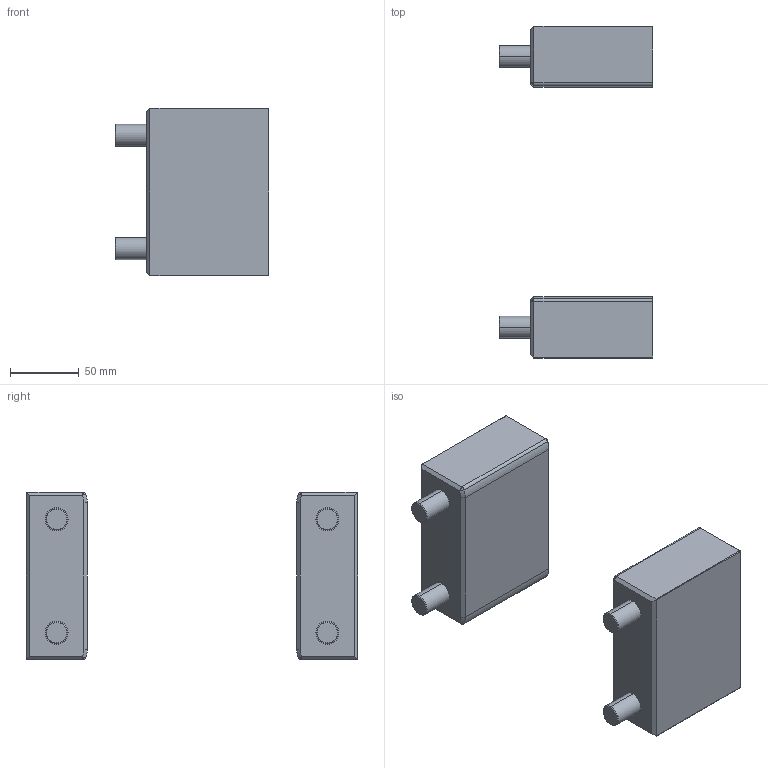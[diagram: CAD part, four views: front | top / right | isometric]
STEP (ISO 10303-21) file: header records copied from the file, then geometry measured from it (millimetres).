
FILE_DESCRIPTION (( 'STEP AP203' ), '1' );
FILE_NAME ('BLG350L4.8.step', '2016-11-21T18:58:10', ( '' ), ( '' ), 'SwSTEP 2.0', 'SolidWorks 2014', '' );
FILE_SCHEMA (( 'CONFIG_CONTROL_DESIGN' ));
Length unit declared in the file: inch
Products named in the file (3): BLG350L4.8; 58-11x375 SHCS
Assembly tree (6 placements, depth 2):
  BLG350L4.8
    BLG350L4.8  x2
    58-11x375 SHCS  x4
Bounding box: 111.89 x 241.34 x 122.17 mm (x, y, z)
Volume: 964257.4 mm3; surface area: 126382.2 mm2
Topology: 6 solids, 6 shells, 152 faces, 336 edges, 200 vertices
Faces by surface type: plane 64, cylinder 52, torus 16, cone 16, sphere 4
Entity records: 2021 total; most frequent: DIRECTION 312, CARTESIAN_POINT 281, ORIENTED_EDGE 252, EDGE_CURVE 126, AXIS2_PLACEMENT_3D 123, VERTEX_POINT 76, EDGE_LOOP 66, VECTOR 66
